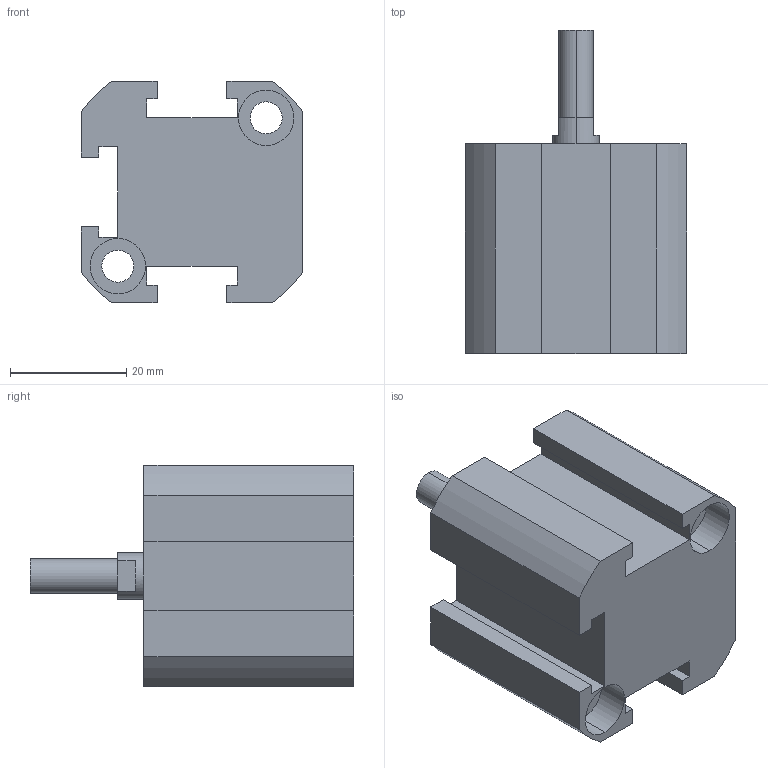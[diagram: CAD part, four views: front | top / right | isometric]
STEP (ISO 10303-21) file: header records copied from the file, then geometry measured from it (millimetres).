
FILE_DESCRIPTION (( 'STEP AP203' ), '1' );
FILE_NAME ('XC#M0-20D-10.STEP', '2016-05-23T08:32:54', ( '' ), ( '' ), 'SwSTEP 2.0', 'SolidWorks 2014', '' );
FILE_SCHEMA (( 'CONFIG_CONTROL_DESIGN' ));
Length unit declared in the file: millimetre
Products named in the file (1): XC#M0-20D-10
Bounding box: 38 x 55.5 x 38 mm (x, y, z)
Volume: 38136.6 mm3; surface area: 11644.1 mm2
Topology: 1 solids, 1 shells, 85 faces, 217 edges, 142 vertices
Faces by surface type: plane 46, cylinder 37, cone 2
Entity records: 2663 total; most frequent: DIRECTION 468, CARTESIAN_POINT 443, ORIENTED_EDGE 430, EDGE_CURVE 215, AXIS2_PLACEMENT_3D 167, VERTEX_POINT 142, LINE 134, VECTOR 134
